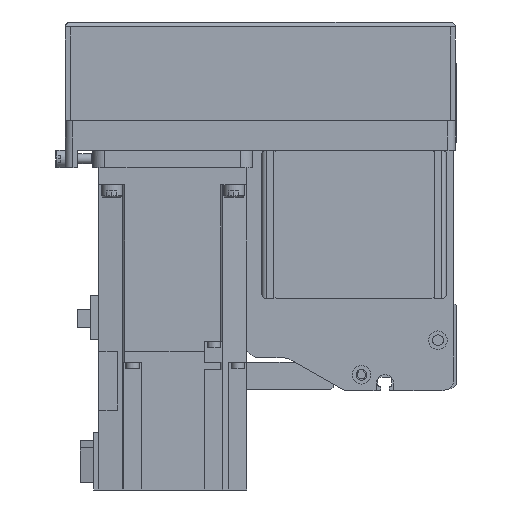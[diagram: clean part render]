
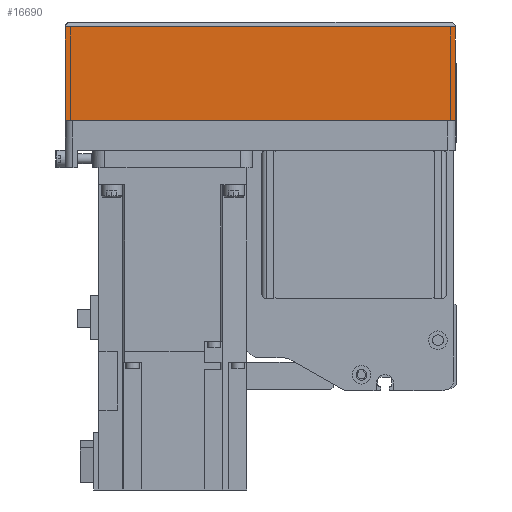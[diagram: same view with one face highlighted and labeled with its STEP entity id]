
A CAD part, left-side view. The second image highlights one B-rep face of the part: STEP entity #16690.
In plain terms, the highlighted planar face has unit normal (-1, 0, 0) as drawn and (0, 1, 0) by its records, which use the part's own axes.
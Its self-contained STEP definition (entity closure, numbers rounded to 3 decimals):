
#2622=ORIENTED_EDGE('',*,*,#6707,.F.);
#2623=ORIENTED_EDGE('',*,*,#6776,.F.);
#2624=ORIENTED_EDGE('',*,*,#6724,.T.);
#2625=ORIENTED_EDGE('',*,*,#6699,.T.);
#6699=EDGE_CURVE('',#8928,#8927,#10629,.T.);
#6707=EDGE_CURVE('',#8935,#8927,#10637,.T.);
#6724=EDGE_CURVE('',#8945,#8928,#10650,.T.);
#6776=EDGE_CURVE('',#8945,#8935,#10679,.T.);
#8927=VERTEX_POINT('',#25646);
#8928=VERTEX_POINT('',#25648);
#8935=VERTEX_POINT('',#25665);
#8945=VERTEX_POINT('',#25696);
#10629=LINE('',#25647,#12219);
#10637=LINE('',#25664,#12227);
#10650=LINE('',#25695,#12240);
#10679=LINE('',#25790,#12269);
#12219=VECTOR('',#20529,1000.);
#12227=VECTOR('',#20541,1000.);
#12240=VECTOR('',#20570,1000.);
#12269=VECTOR('',#20687,1000.);
#13686=EDGE_LOOP('',(#2622,#2623,#2624,#2625));
#14916=FACE_BOUND('',#13686,.T.);
#15975=PLANE('',#17907);
#16690=ADVANCED_FACE('',(#14916),#15975,.T.);
#17907=AXIS2_PLACEMENT_3D('',#25789,#20685,#20686);
#20529=DIRECTION('',(1.,0.,0.));
#20541=DIRECTION('',(0.,0.,1.));
#20570=DIRECTION('',(0.,0.,1.));
#20685=DIRECTION('',(0.,1.,0.));
#20686=DIRECTION('',(0.,0.,1.));
#20687=DIRECTION('',(1.,0.,0.));
#25646=CARTESIAN_POINT('',(0.,39.,-12.1));
#25647=CARTESIAN_POINT('',(-158.,39.,-12.1));
#25648=CARTESIAN_POINT('',(-158.,39.,-12.1));
#25664=CARTESIAN_POINT('',(0.,39.,-50.));
#25665=CARTESIAN_POINT('',(0.,39.,-50.));
#25695=CARTESIAN_POINT('',(-158.,39.,-50.));
#25696=CARTESIAN_POINT('',(-158.,39.,-50.));
#25789=CARTESIAN_POINT('',(-158.,39.,-50.));
#25790=CARTESIAN_POINT('',(-158.,39.,-50.));
